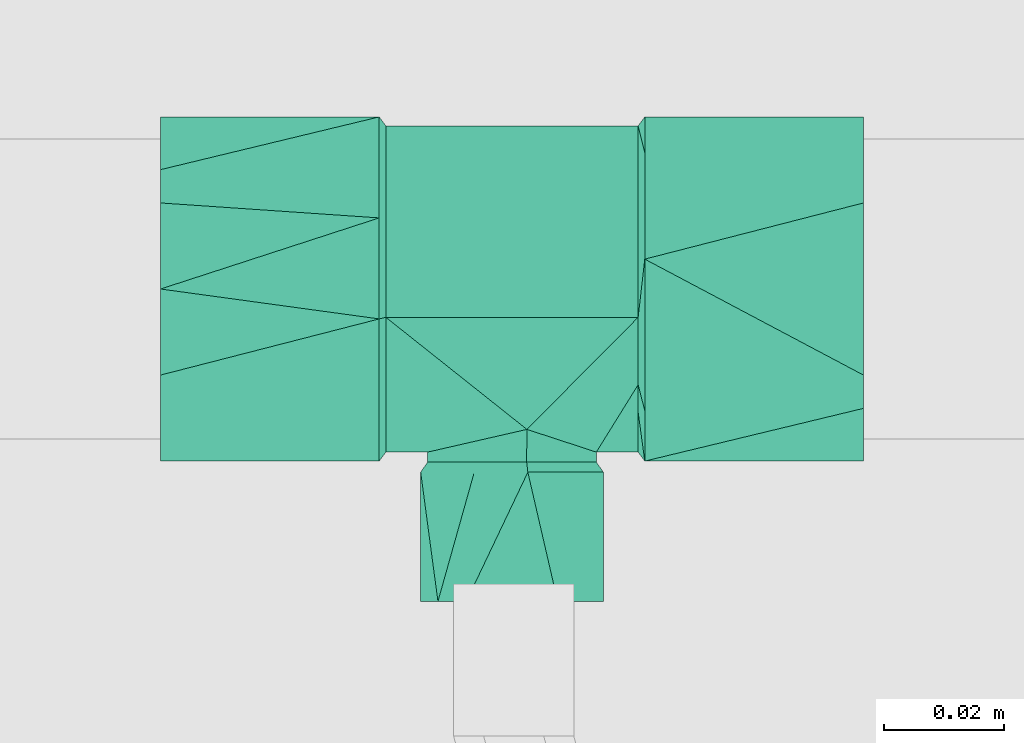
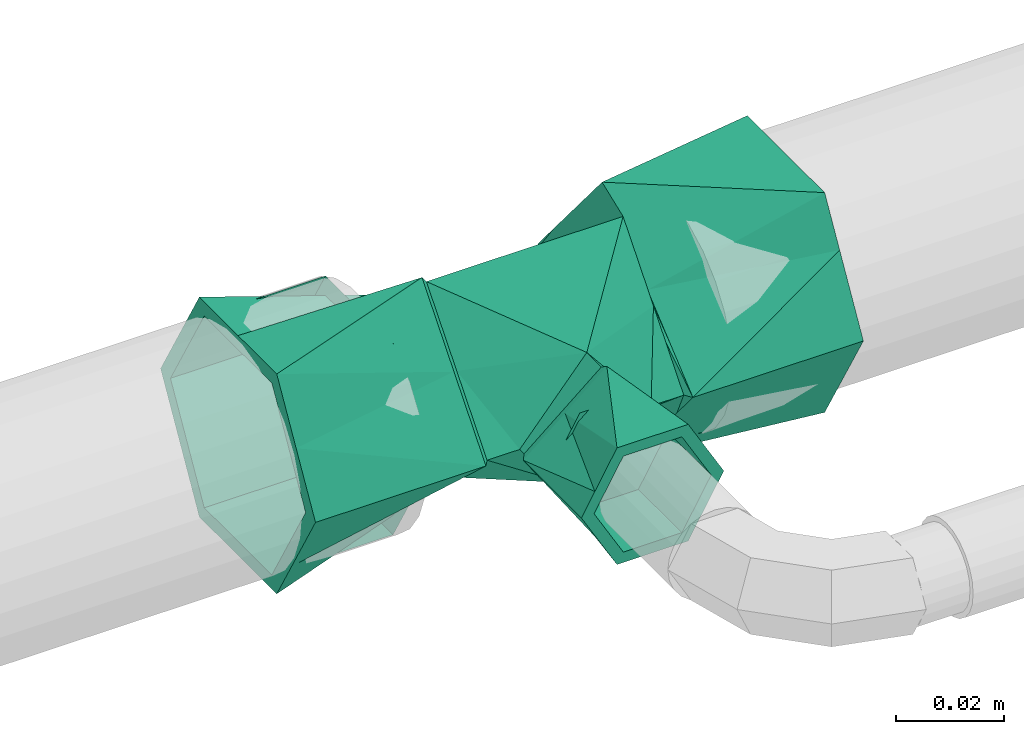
# One storey, part 80 of 166: 1 flow fitting.
"""IFC2X3 building model written with IfcOpenShell, lengths in metres."""

from ifc_helpers import new_model, entity, si_unit, converted_unit, direction, frame, origin, place, context, subcontext, project, spatial, faceted_brep, source, transform, mapped, material, type_object, type_shapes, element, save


model = new_model("IFC2X3")

# Units and contexts
model_context = context("Model", 3, precision=1e-05, world=origin(), true_north=direction((6.123233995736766e-17, 1.0)))
body_context = subcontext(model_context, "Body", "Model", "MODEL_VIEW")
ifc_project = project(units=[si_unit("LENGTHUNIT", "METRE"), converted_unit("PLANEANGLEUNIT", "DEGREE", entity("IfcPlaneAngleMeasure", 0.017453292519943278), si_unit("PLANEANGLEUNIT", "RADIAN"), dimensions=[0, 0, 0, 0, 0, 0, 0]), si_unit("AREAUNIT", "SQUARE_METRE")], contexts=[model_context])

# Site, building, storey
site_placement = place(None, origin())
site = spatial("IfcSite", under=ifc_project, at=site_placement, Name="Default", CompositionType="ELEMENT")
building_placement = place(site_placement, origin())
building = spatial("IfcBuilding", under=site, at=building_placement, Name="CASA DE ACOLHIDA PARA IDOSOS", CompositionType="ELEMENT")
storey_placement = place(building_placement, frame((0.0, 0.0, -1.7499999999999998)))
storey = spatial("IfcBuildingStorey", under=building, at=storey_placement, Name="IMPLANTAÇÃO DRENAGEM", CompositionType="ELEMENT", Elevation=-1.7499999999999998)

# Flow fitting
ifc_material = material(Name="PVC Branco")
pipe_fitting_type = type_object("IfcPipeFittingType", Name="AF_Roscavel_Te_Reducao:Standard", PredefinedType="NOTDEFINED", material=ifc_material)
shared_shape = source(origin(), body_context, "Body", "Brep", [
    faceted_brep([(-0.022099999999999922, 0.022730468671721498, -0.007053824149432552), (-0.022099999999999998, 0.028649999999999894, 0.0), (-0.021, 0.027149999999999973, 0.0), (-0.02099999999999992, 0.019184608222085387, -0.006684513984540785), (-0.020999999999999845, 0.011219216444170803, -0.013369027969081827), (-0.022099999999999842, 0.0168109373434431, -0.014107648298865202), (-0.020999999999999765, 0.0032538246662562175, -0.02005354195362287), (-0.022099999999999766, 0.010891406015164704, -0.02116147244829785), (-0.020999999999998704, -0.015930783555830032, -0.013369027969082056), (-0.022099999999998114, -0.020244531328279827, -0.007053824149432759), (-0.022099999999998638, -0.01183906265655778, -0.01410764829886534), (-0.020999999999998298, -0.02051095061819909, -0.007911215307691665), (-0.02209999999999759, -0.02865000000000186, 0.0), (-0.020999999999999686, -0.004711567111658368, -0.02673805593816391), (-0.02209999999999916, -0.0034335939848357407, -0.021161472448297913), (-0.022099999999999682, 0.004971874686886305, -0.028215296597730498), (-0.020999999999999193, -0.010321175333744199, -0.02005354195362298), (-0.02099999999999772, -0.027150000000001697, 0.0), (-0.02210000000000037, -0.022732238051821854, 0.007053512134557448), (-0.021000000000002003, -0.019182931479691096, 0.006684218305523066), (-0.021000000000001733, -0.011215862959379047, 0.013368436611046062), (-0.022100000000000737, -0.0168144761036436, 0.014107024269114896), (-0.021000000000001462, -0.0032487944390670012, 0.020052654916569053), (-0.022100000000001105, -0.010896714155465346, 0.021160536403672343), (-0.022100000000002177, 0.020242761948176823, 0.007053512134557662), (-0.02100000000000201, 0.021542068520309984, 0.006684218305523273), (-0.022100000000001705, 0.0034282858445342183, 0.021160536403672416), (-0.021000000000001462, 0.010326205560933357, 0.020052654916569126), (-0.022100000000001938, 0.01183552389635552, 0.014107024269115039), (-0.021000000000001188, 0.004718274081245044, 0.02673687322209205), (-0.022100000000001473, -0.004978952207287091, 0.028214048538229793), (-0.021000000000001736, 0.01593413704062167, 0.013368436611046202), (-0.02099999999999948, 0.018449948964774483, 0.010369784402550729), (0.021, 0.027149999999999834, 0.0), (0.021000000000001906, 0.004718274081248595, 0.026736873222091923), (0.021000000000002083, 0.010326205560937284, 0.02005265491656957), (0.021000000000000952, 0.015934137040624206, 0.013368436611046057), (0.021000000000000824, 0.020511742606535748, 0.007912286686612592), (0.021, -0.027150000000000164, 0.0), (0.0024774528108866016, -0.023369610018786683, 0.013819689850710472), (0.008258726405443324, -0.025259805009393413, 0.006909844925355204), (0.014040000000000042, -0.027150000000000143, 0.0), (-0.014039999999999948, -0.02715000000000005, 0.0), (-0.008913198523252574, -0.02597661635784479, 0.004289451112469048), (-0.0057812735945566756, -0.02525980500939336, 0.0069098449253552), (0.021000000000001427, -0.01918293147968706, 0.006684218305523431), (0.021000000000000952, -0.011215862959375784, 0.013368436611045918), (0.02100000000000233, -0.00324879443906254, 0.020052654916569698), (0.02099999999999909, 0.019607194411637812, -0.006329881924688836), (0.020999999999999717, 0.011219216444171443, -0.013369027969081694), (0.02099999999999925, 0.003253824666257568, -0.02005354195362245), (0.020999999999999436, -0.004711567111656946, -0.02673805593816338), (-0.0024814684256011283, -0.023370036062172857, -0.013818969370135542), (0.020999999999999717, -0.015930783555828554, -0.013369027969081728), (0.008912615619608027, -0.025976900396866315, -0.004288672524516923), (0.005779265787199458, -0.025260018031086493, -0.006909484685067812), (-0.00826073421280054, -0.025260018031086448, -0.006909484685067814), (0.020999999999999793, -0.020510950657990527, -0.007911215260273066), (0.020999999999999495, -0.010321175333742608, -0.020053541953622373), (0.02210000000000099, 0.01681093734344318, 0.014107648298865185), (0.022100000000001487, 0.01089140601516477, 0.021161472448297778), (0.022100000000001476, -0.012730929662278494, 0.013359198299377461), (0.022100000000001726, -0.003879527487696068, 0.020787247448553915), (0.022100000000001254, -0.020690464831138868, 0.006679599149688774), (0.022100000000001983, 0.004971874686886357, 0.02821529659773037), (0.0221, 0.028650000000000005, 0.0), (0.022100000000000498, 0.022730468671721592, 0.007053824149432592), (0.022100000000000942, -0.011839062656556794, 0.014107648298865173), (0.022100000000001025, -0.02864999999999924, 0.0), (0.022099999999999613, -0.009809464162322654, -0.022456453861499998), (0.022099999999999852, -0.021644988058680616, -0.008349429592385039), (0.02209999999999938, 0.0034282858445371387, -0.02116053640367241), (0.022099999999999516, -0.004978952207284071, -0.028214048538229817), (0.02209999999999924, 0.011835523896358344, -0.014107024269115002), (0.0220999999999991, 0.02024276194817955, -0.0070535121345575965), (0.02209999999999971, -0.014639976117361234, -0.01669885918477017), (0.022100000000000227, -0.016814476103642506, -0.014107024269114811), (-0.058500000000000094, -0.014325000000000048, -0.024811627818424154), (-0.058500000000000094, -0.025, 0.0), (-0.058500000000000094, -0.01997114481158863, -0.00871023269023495), (-0.0585000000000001, -0.019870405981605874, -0.015206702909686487), (-0.058500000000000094, -0.012500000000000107, -0.021650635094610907), (-0.058500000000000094, 0.0, -0.02165063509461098), (-0.058500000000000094, 0.012499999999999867, -0.021650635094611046), (-0.0585000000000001, 0.0, -0.024811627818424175), (-0.058500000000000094, -0.028650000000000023, 0.0), (-0.0585000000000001, -0.018750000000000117, 0.01082531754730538), (-0.058500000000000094, -0.012500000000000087, 0.021650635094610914), (-0.0585000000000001, -0.021487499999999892, 0.012405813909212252), (-0.058500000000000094, -0.014324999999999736, 0.02481162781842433), (-0.058500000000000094, 0.0, 0.021650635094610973), (-0.058500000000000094, 0.012499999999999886, 0.021650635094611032), (-0.0585000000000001, 0.0, 0.02481162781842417), (-0.058500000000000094, 0.014325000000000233, 0.024811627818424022), (-0.0585000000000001, 0.019870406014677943, 0.015206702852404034), (-0.058500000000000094, 0.02864999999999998, 0.0), (-0.058500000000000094, 0.019971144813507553, 0.00871023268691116), (-0.058500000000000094, 0.025, 0.0), (-0.0585000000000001, 0.021487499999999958, -0.012405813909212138), (-0.058500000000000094, 0.014324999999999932, -0.0248116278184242), (-0.058500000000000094, 0.018749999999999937, -0.010825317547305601), (0.0585000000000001, 0.021487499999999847, 0.012405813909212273), (0.058500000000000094, 0.028650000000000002, 0.0), (0.058500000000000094, -0.028650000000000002, 0.0), (0.0585000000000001, -0.01987040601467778, 0.015206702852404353), (0.0585000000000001, -0.021487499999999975, -0.012405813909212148), (0.0585000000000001, 0.019870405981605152, -0.015206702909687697), (0.058500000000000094, 0.014325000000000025, -0.024811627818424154), (0.058500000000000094, 0.024999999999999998, 0.0), (0.058500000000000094, 0.019971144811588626, -0.00871023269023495), (0.058500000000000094, 0.012500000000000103, -0.021650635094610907), (0.058500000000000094, 0.0, -0.02165063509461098), (0.058500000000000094, -0.012499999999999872, -0.021650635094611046), (0.0585000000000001, 0.0, -0.024811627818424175), (0.0585000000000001, 0.01875000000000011, 0.01082531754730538), (0.058500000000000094, 0.012500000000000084, 0.021650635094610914), (0.058500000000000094, 0.014324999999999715, 0.02481162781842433), (0.058500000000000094, 0.0, 0.021650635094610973), (0.058500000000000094, -0.012499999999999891, 0.021650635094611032), (0.0585000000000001, 0.0, 0.02481162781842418), (0.058500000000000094, -0.014325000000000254, 0.024811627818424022), (0.058500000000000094, -0.019971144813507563, 0.00871023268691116), (0.058500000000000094, -0.025000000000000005, 0.0), (0.058500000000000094, -0.014324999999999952, -0.0248116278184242), (0.058500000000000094, -0.018749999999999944, -0.010825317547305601), (-0.032600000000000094, -0.025, 0.0), (-0.032600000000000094, -0.019971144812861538, 0.00871023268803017), (-0.032600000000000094, -0.012500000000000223, 0.021650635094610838), (-0.032600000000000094, 0.0, 0.021650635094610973), (-0.032600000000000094, 0.012499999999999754, 0.02165063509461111), (-0.032600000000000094, 0.018749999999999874, 0.010825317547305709), (-0.032600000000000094, 0.025, 0.0), (-0.032600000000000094, 0.019971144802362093, -0.008710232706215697), (-0.032600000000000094, 0.012500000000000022, -0.021650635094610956), (-0.032600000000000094, 0.0, -0.02165063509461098), (-0.032600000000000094, -0.012499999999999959, -0.021650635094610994), (-0.032600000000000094, -0.018749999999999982, -0.010825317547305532), (0.03260000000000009, -0.025, 0.0), (0.032600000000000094, -0.018749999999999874, 0.010825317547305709), (0.032600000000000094, -0.012499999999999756, 0.02165063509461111), (0.032600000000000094, 0.0, 0.021650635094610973), (0.032600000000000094, 0.012500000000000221, 0.021650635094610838), (0.032600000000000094, 0.019971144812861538, 0.00871023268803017), (0.032600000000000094, 0.025, 0.0), (0.032600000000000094, 0.018749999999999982, -0.010825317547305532), (0.032600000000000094, 0.012499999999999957, -0.021650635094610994), (0.032600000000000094, 0.0, -0.02165063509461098), (0.032600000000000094, -0.012500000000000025, -0.021650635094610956), (0.032600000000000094, -0.019971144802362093, -0.008710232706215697), (0.012500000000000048, -0.03589999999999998, 0.0), (0.006250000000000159, -0.035899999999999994, 0.010825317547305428), (-0.0062499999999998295, -0.03590000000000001, 0.010825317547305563), (-0.012499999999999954, -0.03590000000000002, 0.0), (-0.006249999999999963, -0.03590000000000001, -0.010825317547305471), (0.006250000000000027, -0.035899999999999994, -0.01082531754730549), (0.012500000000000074, -0.05199999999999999, 0.0), (0.006250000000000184, -0.052, 0.010825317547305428), (-0.006249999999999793, -0.05200000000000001, 0.01082531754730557), (-0.01249999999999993, -0.052000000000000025, 0.0), (-0.006249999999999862, -0.05200000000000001, -0.010825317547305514), (0.006250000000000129, -0.052, -0.010825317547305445), (-0.011620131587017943, -0.028800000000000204, -0.0028835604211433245), (-0.01403999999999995, -0.02880000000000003, 0.0), (-0.002436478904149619, -0.028800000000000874, -0.013826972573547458), (-0.008238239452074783, -0.02880000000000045, -0.006913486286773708), (0.0030428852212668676, -0.028800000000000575, -0.009228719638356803), (0.014040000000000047, -0.02879999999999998, 0.0), (0.008541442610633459, -0.02880000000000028, -0.004614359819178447), (0.005801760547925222, -0.02880000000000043, -0.006913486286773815), (0.011620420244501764, -0.028799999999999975, 0.002883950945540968), (0.002439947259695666, -0.028799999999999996, 0.01382636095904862), (0.008239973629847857, -0.028799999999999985, 0.00691318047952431), (-0.0030421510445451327, -0.028800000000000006, 0.00922698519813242), (-0.008541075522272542, -0.028800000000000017, 0.004613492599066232), (-0.005800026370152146, -0.028800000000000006, 0.006913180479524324), (0.0026415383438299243, -0.030500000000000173, 0.01496870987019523), (0.008920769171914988, -0.03050000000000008, 0.007484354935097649), (0.010065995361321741, -0.030500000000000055, 0.006119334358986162), (0.015200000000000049, -0.03049999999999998, 0.0), (-0.015199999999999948, -0.03050000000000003, 0.0), (-0.006279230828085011, -0.0305000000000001, 0.007484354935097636), (-0.0026377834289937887, -0.030500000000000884, -0.01496937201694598), (-0.008918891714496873, -0.03050000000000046, -0.007484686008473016), (-0.010065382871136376, -0.030500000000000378, -0.006118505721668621), (0.006281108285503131, -0.03050000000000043, -0.007484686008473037), (0.007600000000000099, -0.052, -0.01316358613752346), (0.012327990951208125, -0.05199999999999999, -0.004974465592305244), (0.0, -0.052000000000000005, -0.01316358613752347), (0.015200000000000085, -0.051999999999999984, 0.0), (0.011400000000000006, -0.05199999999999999, 0.00658179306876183), (0.007599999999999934, -0.052, 0.013163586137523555), (0.0, -0.052000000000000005, 0.013163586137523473), (-0.007600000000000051, -0.05200000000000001, 0.01316358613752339), (-0.012327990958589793, -0.052000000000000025, 0.00497446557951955), (-0.015199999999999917, -0.05200000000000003, 0.0), (-0.011399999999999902, -0.052000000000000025, -0.006581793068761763), (-0.007599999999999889, -0.05200000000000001, -0.013163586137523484)], [[[0, 1, 2]], [[3, 4, 5]], [[6, 7, 4]], [[8, 9, 10]], [[11, 12, 9]], [[13, 14, 15]], [[14, 16, 10]], [[16, 14, 13]], [[2, 3, 0]], [[9, 8, 11]], [[11, 17, 12]], [[7, 6, 15]], [[6, 13, 15]], [[5, 4, 7]], [[16, 8, 10]], [[3, 5, 0]], [[18, 12, 17]], [[19, 20, 21]], [[22, 23, 20]], [[1, 24, 25]], [[25, 2, 1]], [[26, 27, 28]], [[29, 26, 30]], [[27, 26, 29]], [[17, 19, 18]], [[23, 22, 30]], [[24, 28, 31]], [[22, 29, 30]], [[21, 20, 23]], [[27, 31, 28]], [[19, 21, 18]], [[24, 31, 32, 25]], [[33, 2, 25, 32, 31, 27, 29, 34, 35, 36, 37]], [[38, 39, 40, 41]], [[20, 42, 43, 44, 39]], [[39, 38, 45, 46]], [[20, 39, 46]], [[34, 29, 22, 20, 46, 47]], [[42, 20, 19, 17]], [[4, 3, 2, 33, 48, 49, 50, 51, 13, 6]], [[51, 52, 13]], [[53, 41, 54, 55, 52]], [[8, 52, 56, 42]], [[42, 17, 11, 8]], [[41, 53, 57, 38]], [[52, 51, 58, 53]], [[52, 8, 16, 13]], [[36, 35, 59, 37]], [[34, 60, 35]], [[46, 45, 61]], [[47, 46, 62]], [[38, 63, 45]], [[64, 34, 47]], [[65, 33, 66]], [[60, 34, 64]], [[46, 61, 67, 62]], [[64, 47, 62]], [[33, 37, 66]], [[37, 59, 66]], [[63, 38, 68]], [[63, 61, 45]], [[60, 59, 35]], [[51, 69, 58]], [[68, 38, 70]], [[51, 71, 72]], [[73, 49, 74]], [[75, 53, 58]], [[33, 65, 48]], [[50, 73, 71]], [[53, 75, 76, 70]], [[48, 74, 49]], [[73, 50, 49]], [[51, 50, 71]], [[38, 57, 53, 70]], [[48, 65, 74]], [[69, 51, 72]], [[69, 75, 58]], [[77, 78, 79]], [[78, 77, 80]], [[77, 79, 81]], [[77, 81, 82]], [[77, 82, 83]], [[83, 84, 77]], [[78, 80, 85]], [[85, 86, 78]], [[85, 87, 86]], [[87, 85, 88]], [[87, 88, 89]], [[89, 90, 87]], [[89, 91, 90]], [[91, 89, 92]], [[91, 92, 93]], [[91, 93, 94]], [[91, 94, 95]], [[95, 96, 91]], [[95, 97, 96]], [[97, 95, 98]], [[97, 98, 99]], [[99, 83, 100]], [[83, 99, 84]], [[99, 100, 97]], [[28, 94, 93]], [[94, 28, 24, 1]], [[1, 95, 94]], [[65, 101, 102]], [[12, 88, 85]], [[68, 103, 104]], [[89, 21, 23, 30]], [[21, 89, 88]], [[88, 12, 18, 21]], [[92, 30, 26, 28]], [[30, 92, 89]], [[28, 93, 92]], [[10, 80, 77]], [[80, 10, 9, 12]], [[12, 85, 80]], [[68, 105, 103]], [[1, 98, 95]], [[65, 102, 106]], [[99, 5, 7, 15]], [[5, 99, 98]], [[98, 1, 0, 5]], [[15, 77, 84, 99]], [[77, 15, 14, 10]], [[107, 108, 109]], [[108, 107, 106]], [[107, 109, 110]], [[107, 110, 111]], [[107, 111, 112]], [[112, 113, 107]], [[108, 106, 102]], [[102, 114, 108]], [[102, 115, 114]], [[115, 102, 101]], [[115, 101, 116]], [[116, 117, 115]], [[116, 118, 117]], [[118, 116, 119]], [[118, 119, 120]], [[118, 120, 104]], [[118, 104, 103]], [[103, 121, 118]], [[103, 122, 121]], [[122, 103, 105]], [[122, 105, 123]], [[123, 112, 124]], [[112, 123, 113]], [[123, 124, 122]], [[67, 104, 120]], [[104, 67, 61, 63, 68]], [[116, 59, 60, 64]], [[59, 116, 101]], [[101, 65, 66, 59]], [[64, 120, 119, 116]], [[120, 64, 62, 67]], [[73, 106, 107]], [[106, 73, 74, 65]], [[123, 76, 75, 69, 72]], [[76, 123, 105]], [[105, 68, 70, 76]], [[113, 72, 71, 73]], [[72, 113, 123]], [[73, 107, 113]], [[125, 126, 127, 128, 129, 130, 131, 132, 133, 134, 135, 136]], [[87, 127, 126, 125, 78, 86]], [[137, 138, 139, 118, 121, 122]], [[129, 128, 127, 87, 90, 91]], [[139, 140, 141, 115, 117, 118]], [[131, 130, 129, 91, 96, 97]], [[115, 141, 142, 143, 108, 114]], [[83, 133, 132, 131, 97, 100]], [[143, 144, 145, 110, 109, 108]], [[135, 134, 133, 83, 82, 81]], [[145, 146, 147, 112, 111, 110]], [[125, 136, 135, 81, 79, 78]], [[112, 147, 148, 137, 122, 124]], [[143, 142, 141, 140, 139, 138, 137, 148, 147, 146, 145, 144]], [[149, 150, 151, 152, 153, 154]], [[155, 156, 150, 149]], [[156, 157, 151, 150]], [[157, 158, 152, 151]], [[158, 159, 153, 152]], [[159, 160, 154, 153]], [[160, 155, 149, 154]], [[42, 161, 162]], [[56, 163, 164, 161]], [[163, 56, 52]], [[165, 163, 52]], [[166, 167, 41]], [[55, 167, 168, 165]], [[55, 54, 41, 167]], [[165, 52, 55]], [[56, 161, 42]], [[41, 169, 166]], [[40, 170, 171, 169]], [[170, 40, 39]], [[172, 170, 39]], [[162, 173, 42]], [[44, 173, 174, 172]], [[44, 43, 42, 173]], [[172, 39, 44]], [[40, 169, 41]], [[175, 176, 177, 178, 166, 169, 171, 170]], [[170, 172, 174, 173, 162, 179, 180, 175]], [[181, 182, 183, 179, 162, 161, 164, 163]], [[163, 165, 168, 167, 166, 178, 184, 181]], [[185, 155, 160]], [[155, 185, 186]], [[185, 160, 159]], [[159, 187, 185]], [[155, 186, 188]], [[156, 155, 188]], [[156, 188, 189]], [[156, 189, 190]], [[156, 190, 157]], [[157, 190, 191]], [[157, 191, 192]], [[157, 192, 193]], [[157, 193, 194]], [[194, 158, 157]], [[158, 194, 195]], [[158, 195, 196]], [[196, 159, 158]], [[159, 196, 187]], [[180, 193, 192]], [[180, 179, 193]], [[179, 194, 193]], [[178, 189, 188]], [[175, 190, 176]], [[176, 190, 189]], [[189, 178, 177, 176]], [[180, 191, 175]], [[175, 191, 190]], [[180, 192, 191]], [[184, 186, 185]], [[184, 178, 186]], [[178, 188, 186]], [[179, 195, 194]], [[181, 196, 182]], [[182, 196, 195]], [[195, 179, 183, 182]], [[181, 185, 187, 196]], [[181, 184, 185]]]),
])
type_shapes(pipe_fitting_type, [shared_shape])
flow_fitting_placement = place(storey_placement, frame((-18.990948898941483, -3.5450579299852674, -0.19999999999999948), z_axis=(0.0, 0.0, -1.0), x_axis=(-1.0, 0.0, 0.0)))
element("IfcFlowFitting", 1, at=flow_fitting_placement, inside=storey, type_object=pipe_fitting_type, material=ifc_material, Name="AF_Roscavel_Te_Reducao:Standard", ObjectType="AF_Roscavel_Te_Reducao:Standard", context=body_context, shape_type="MappedRepresentation", body=[
    mapped(shared_shape, transform((0.0, 0.0, 0.0), scale=1.0)),
])

save(model, "model.ifc")
